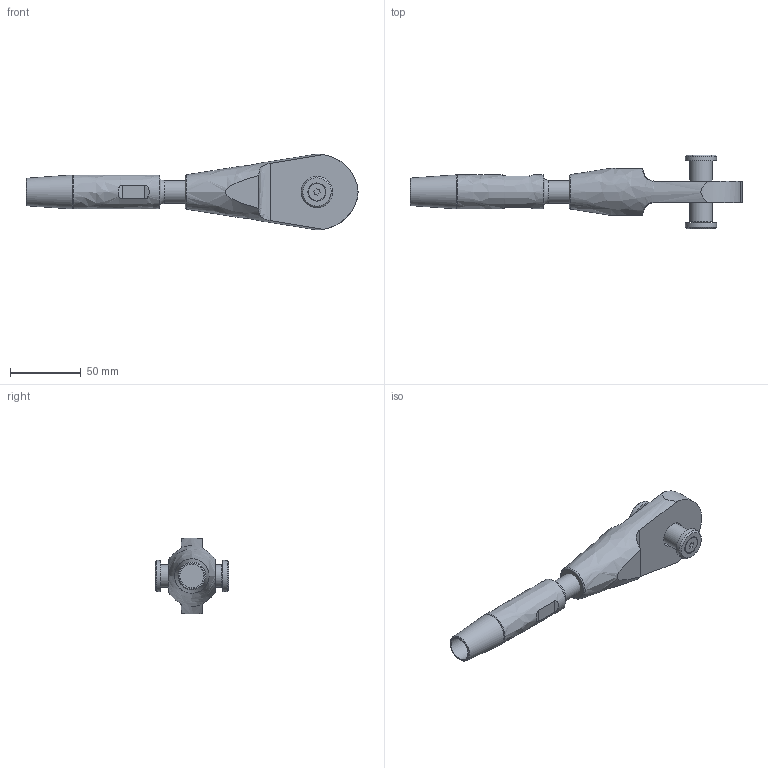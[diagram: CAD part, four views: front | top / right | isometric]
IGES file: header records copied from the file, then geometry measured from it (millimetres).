
Global section: file name: 520-016-OES-ADA; native system: Autodesk Inventor 2020; preprocessor: unknown; author: Administrator; date: 20201007.153315; units: millimetre
Bounding box: 234.5 x 52.21 x 53.46 mm (x, y, z)
Volume: 142341.3 mm3; surface area: 32187.2 mm2
Topology: 6 solids, 6 shells, 63 faces, 151 edges, 105 vertices
Faces by surface type: bspline 63
